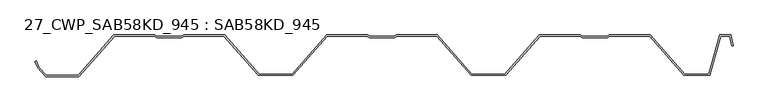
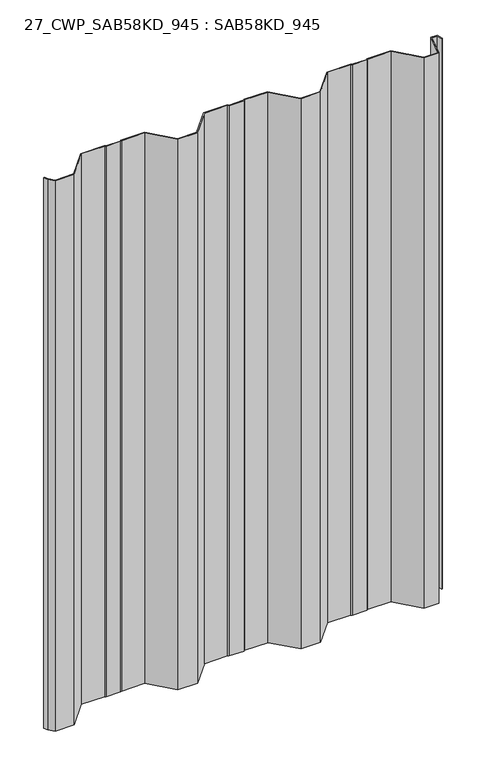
"""IFC4 building model written with IfcOpenShell, lengths in millimetres: plate geometry, 27_CWP_SAB58KD_945 : SAB58KD_945."""

from ifc_helpers import new_model, si_unit, origin, origin_with_axes, place, context, project, spatial, polyline, outline, extrude, source, transform, mapped, element, save


def plate_27_cwp_sab58kd_945_sab58kd_945_d17ab401(model_context):
    return source(origin(), model_context, "Body", "SweptSolid", [
        extrude(outline(polyline([(-21.9757041, -3.5334954), (-81.7046609, -3.5334954), (-133.1148816, -62.0), (-184.4216225, -62.0), (-235.8318433, -3.5334954), (-295.5597403, -3.5334954), (-298.5838698, -5.5495818), (-336.4870188, -5.5495818), (-339.5111484, -3.5334954), (-399.2353908, -3.5334954), (-452.4090631, -64.0), (-501.9472237, -64.0), (-513.7617014, -50.7877362), (-518.0388969, -41.2315811), (-516.213408, -40.4145189), (-512.0633625, -49.6865944), (-501.0526486, -62.0), (-453.313609, -62.0), (-400.1399367, -1.5334954), (-338.9055971, -1.5334954), (-335.8814675, -3.5495818), (-299.1894211, -3.5495818), (-296.1652915, -1.5334954), (-234.927243, -1.5334954), (-183.5170223, -60.0), (-134.0194819, -60.0), (-82.6092611, -1.5334954), (-21.3701528, -1.5334954), (-18.3460232, -3.5495818), (18.3460232, -3.5495818), (21.3701528, -1.5334954), (82.6082013, -1.5334954), (134.018422, -60.0), (183.5159625, -60.0), (234.9261832, -1.5334954), (296.1634496, -1.5334954), (299.1875792, -3.5495818), (335.8796256, -3.5495818), (338.9037552, -1.5334954), (400.1413472, -1.5334954), (451.5516972, -60.0), (487.6408305, -60.0), (504.1607908, -1.5334954), (520.4484794, -1.5334954), (523.9822575, -17.436214), (522.0298792, -17.8700563), (518.8441205, -3.5334954), (505.6739863, -3.5334954), (489.154026, -62.0), (450.6470985, -62.0), (399.2367485, -3.5334954), (339.5093064, -3.5334954), (336.4851769, -5.5495818), (298.5820279, -5.5495818), (295.5578983, -3.5334954), (235.8307834, -3.5334954), (184.4205627, -62.0), (133.1138218, -62.0), (81.7036011, -3.5334954), (21.9757041, -3.5334954), (18.9515745, -5.5495818), (-18.9515745, -5.5495818), (-21.9757041, -3.5334954)])), origin_with_axes(), (0.0, 0.0, 1.0), 1500.0),
    ])


if __name__ == "__main__":
    model = new_model("IFC4")
    model_context = context("Model", 3, world=origin())
    ifc_project = project(units=[si_unit("LENGTHUNIT", "METRE", prefix="MILLI")], contexts=[model_context])
    site = spatial("IfcSite", under=ifc_project)
    building = spatial("IfcBuilding", under=site)
    placement = place(None, origin())
    plate_27_cwp_sab58kd_945_sab58kd_945_shape = plate_27_cwp_sab58kd_945_sab58kd_945_d17ab401(model_context)
    element("IfcPlate", 1, ObjectType="27_CWP_SAB58KD_945 : SAB58KD_945", at=placement, inside=building, context=model_context, shape_type="MappedRepresentation", body=[
        mapped(plate_27_cwp_sab58kd_945_sab58kd_945_shape, transform((0.0, 0.0, 0.0), x_axis=(1.0, 0.0, 0.0), y_axis=(0.0, 1.0, 0.0), z_axis=(0.0, 0.0, 1.0))),
    ])
    save(model, "model.ifc")
